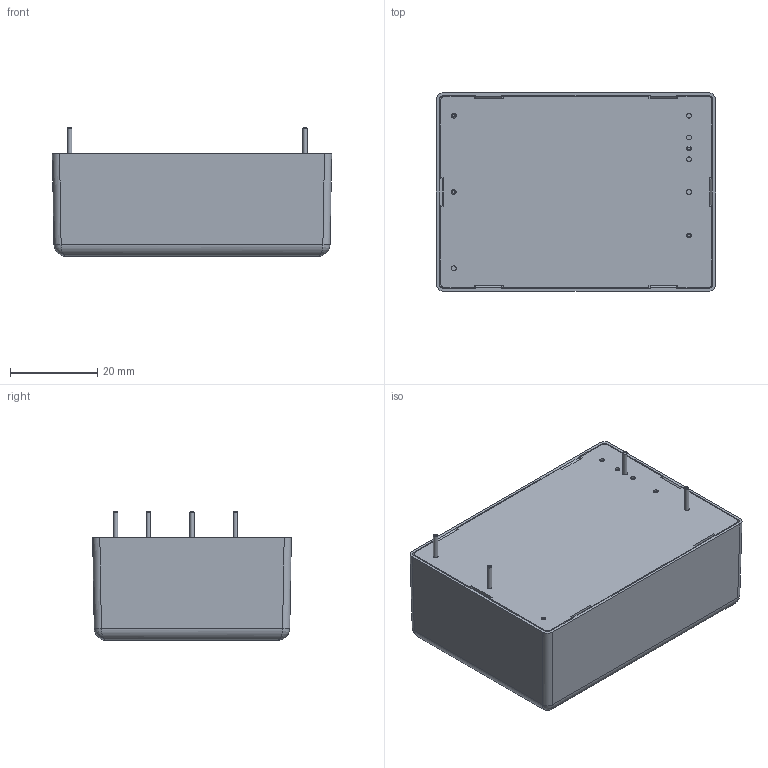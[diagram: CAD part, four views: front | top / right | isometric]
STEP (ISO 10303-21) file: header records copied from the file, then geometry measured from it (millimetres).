
FILE_DESCRIPTION((''),'2;1');
FILE_NAME('C:\Documents and Settings\peter\My Documents\Inventor\MTC\KMS15.stp','2014-12-17T10:44:33',('peter'),(''),'Autodesk Inventor 2008','Autodesk Inventor 2008','');
FILE_SCHEMA(('AUTOMOTIVE_DESIGN { 1 0 10303 214 1 1 1 1 }'));
Length unit declared in the file: millimetre
Products named in the file (5): KMS15; TOP CASE; BOT CASE; PIN - 1 x 25 mm
Assembly tree (7 placements, depth 2):
  KMS15
    TOP CASE
    BOT CASE
    KMS15
    PIN - 1 x 25 mm  x4
Bounding box: 64.1 x 45.6 x 29.5 mm (x, y, z)
Volume: 11844.8 mm3; surface area: 25716.4 mm2
Topology: 7 solids, 7 shells, 178 faces, 438 edges, 280 vertices
Faces by surface type: plane 92, cylinder 36, bspline 25, torus 16, cone 9
Full cylindrical faces by diameter (mm): 1 x8, 1.6 x4
Entity records: 4902 total; most frequent: CARTESIAN_POINT 1277, ORIENTED_EDGE 698, DIRECTION 694, EDGE_CURVE 349, VECTOR 260, LINE 260, VERTEX_POINT 241, AXIS2_PLACEMENT_3D 217
